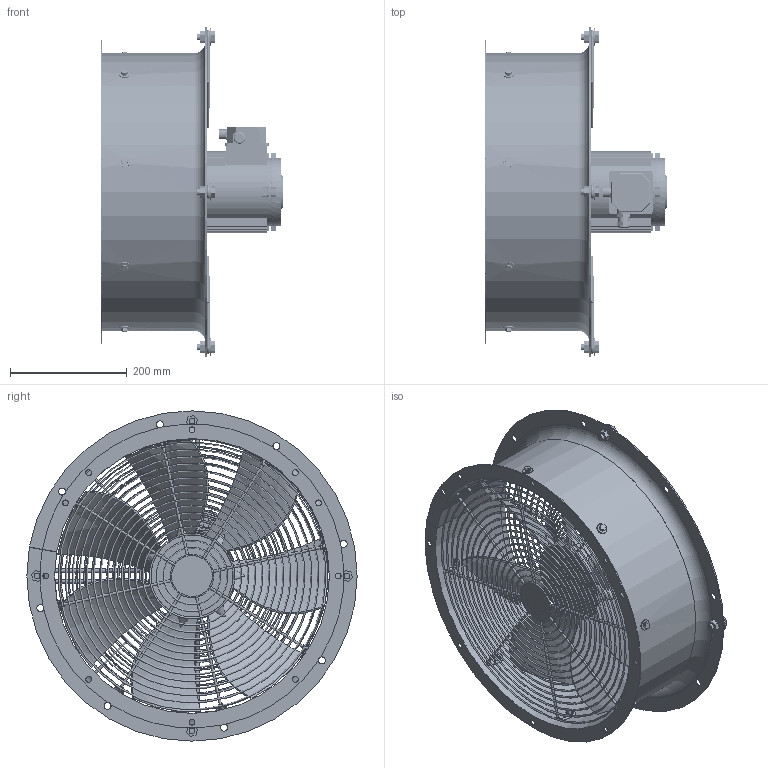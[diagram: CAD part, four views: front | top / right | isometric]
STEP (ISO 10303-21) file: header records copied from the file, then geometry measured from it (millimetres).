
FILE_DESCRIPTION (( 'STEP AP203' ), '1' );
FILE_NAME ('20.18581 VAAZ C 470 M71 B14.STEP', '2020-12-08T10:42:50', ( '' ), ( '' ), 'SwSTEP 2.0', 'SolidWorks 2020', '' );
FILE_SCHEMA (( 'CONFIG_CONTROL_DESIGN' ));
Length unit declared in the file: millimetre
Products named in the file (9): 20.18581 VAAZ C 470 M71 B14; 5AZ 71 B14F85 BVK SS; Vijèani spoj M10x25; 124825 Zašt rešetka ispušna VAAZ C 470 inox A2_inox; Vijèani spoj M6x16; Vijak 啼st. gl. M6; 147057 rev.3 Ku詈嗾e VAAZ C 470 standardno ; 172148 Zašt rešetka usisna VAAZ C 470 inox A2 B14F85; Impeler pojednostavljeno
Assembly tree (21 placements, depth 2):
  20.18581 VAAZ C 470 M71 B14
    147057 rev.3 Ku詈嗾e VAAZ C 470 standardno 
    172148 Zašt rešetka usisna VAAZ C 470 inox A2 B14F85
    5AZ 71 B14F85 BVK SS
    Vijak 啼st. gl. M6  x4
    Vijèani spoj M10x25  x4
    124825 Zašt rešetka ispušna VAAZ C 470 inox A2_inox
    Vijèani spoj M6x16  x8
    Impeler pojednostavljeno
Bounding box: 310.25 x 565 x 565 mm (x, y, z)
Volume: 2826480.4 mm3; surface area: 1757303.7 mm2
Topology: 84 solids, 84 shells, 1079 faces, 2574 edges, 1685 vertices
Faces by surface type: plane 614, cylinder 331, torus 50, bspline 46, cone 38
Full cylindrical faces by diameter (mm): 3.5 x1, 4 x12, 4.5 x8, 5.3 x1, 6 x60, 7 x8, 8 x4, 9 x8, 10 x27, 10.5 x1, 12 x13, 12.058 x8, 13.4 x1, 14 x1, 15 x4, 16 x1, 17 x1, 18 x10, 18.5 x1, 20 x3, 30 x4, 40 x1, 49.643 x2, 61.28 x2, 64.167 x1, 70 x2, 75 x1, 90 x1, 104.48 x1, 105 x1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
Entity records: 40261 total; most frequent: CARTESIAN_POINT 20704, DIRECTION 3740, ORIENTED_EDGE 3474, EDGE_CURVE 1737, AXIS2_PLACEMENT_3D 1433, VERTEX_POINT 1243, EDGE_LOOP 1168, FACE_OUTER_BOUND 983
